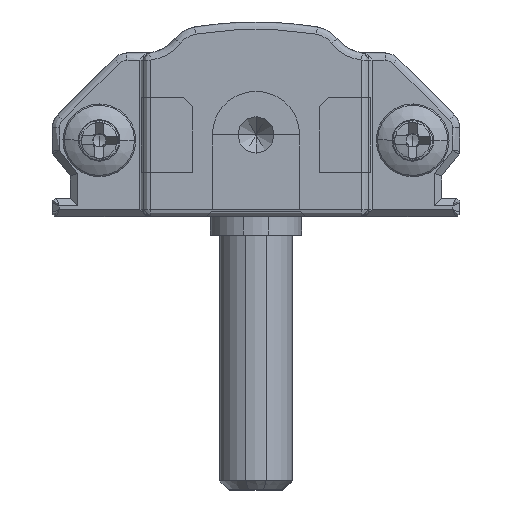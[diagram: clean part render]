
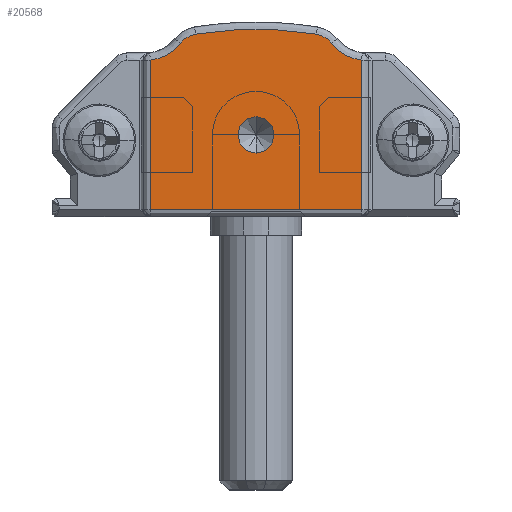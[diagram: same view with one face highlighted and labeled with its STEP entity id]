
A CAD part, front view. The second image highlights one B-rep face of the part: STEP entity #20568.
In plain terms, the highlighted planar face has unit normal (0, -1, 0).
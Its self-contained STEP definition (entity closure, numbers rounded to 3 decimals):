
#465 = DIRECTION ( 'NONE',  ( 1., 0., 0. ) ) ;
#1484 = FACE_OUTER_BOUND ( 'NONE', #29462, .T. ) ;
#2413 = VERTEX_POINT ( 'NONE', #11454 ) ;
#2668 = ORIENTED_EDGE ( 'NONE', *, *, #23107, .T. ) ;
#2838 = AXIS2_PLACEMENT_3D ( 'NONE', #22808, #31479, #45932 ) ;
#2909 = ORIENTED_EDGE ( 'NONE', *, *, #21476, .F. ) ;
#2975 = ORIENTED_EDGE ( 'NONE', *, *, #44107, .T. ) ;
#3580 = CARTESIAN_POINT ( 'NONE',  ( 14.3, -15., 8.75 ) ) ;
#3614 = VERTEX_POINT ( 'NONE', #35373 ) ;
#3628 = CIRCLE ( 'NONE', #37692, 1. ) ;
#4072 = VERTEX_POINT ( 'NONE', #14312 ) ;
#4471 = DIRECTION ( 'NONE',  ( 0., -1., 0. ) ) ;
#4996 = LINE ( 'NONE', #25826, #8708 ) ;
#5347 = ORIENTED_EDGE ( 'NONE', *, *, #10944, .T. ) ;
#6216 = CARTESIAN_POINT ( 'NONE',  ( 22.15, -15., 3.606 ) ) ;
#6855 = CARTESIAN_POINT ( 'NONE',  ( 7.892, -15., 10.034 ) ) ;
#7131 = LINE ( 'NONE', #21643, #11314 ) ;
#8708 = VECTOR ( 'NONE', #465, 1000. ) ;
#8737 = DIRECTION ( 'NONE',  ( 0., 0., -1. ) ) ;
#9156 = AXIS2_PLACEMENT_3D ( 'NONE', #6216, #32298, #42232 ) ;
#9877 = EDGE_CURVE ( 'NONE', #38940, #28938, #7131, .T. ) ;
#10461 = CARTESIAN_POINT ( 'NONE',  ( 11.2, -15., 3.5 ) ) ;
#10907 = DIRECTION ( 'NONE',  ( 0., 0., -1. ) ) ;
#10944 = EDGE_CURVE ( 'NONE', #3614, #39281, #17138, .T. ) ;
#11314 = VECTOR ( 'NONE', #46953, 1000. ) ;
#11454 = CARTESIAN_POINT ( 'NONE',  ( 15.332, -15., 9.541 ) ) ;
#12288 = DIRECTION ( 'NONE',  ( 0., -1., 0. ) ) ;
#12302 = ORIENTED_EDGE ( 'NONE', *, *, #19264, .F. ) ;
#13636 = DIRECTION ( 'NONE',  ( 0., 0., -1. ) ) ;
#13945 = AXIS2_PLACEMENT_3D ( 'NONE', #44257, #12288, #8737 ) ;
#14195 = CARTESIAN_POINT ( 'NONE',  ( 5.162, -15., 11. ) ) ;
#14312 = CARTESIAN_POINT ( 'NONE',  ( 11.2, -15., 5.5 ) ) ;
#16029 = FACE_BOUND ( 'NONE', #20073, .T. ) ;
#16448 = EDGE_CURVE ( 'NONE', #39281, #38940, #4996, .T. ) ;
#16707 = VERTEX_POINT ( 'NONE', #6855 ) ;
#17138 = LINE ( 'NONE', #31545, #30290 ) ;
#18114 = CARTESIAN_POINT ( 'NONE',  ( 5.4, -15., 0.4 ) ) ;
#18178 = DIRECTION ( 'NONE',  ( 0., 0., -1. ) ) ;
#18260 = ORIENTED_EDGE ( 'NONE', *, *, #24341, .T. ) ;
#18985 = DIRECTION ( 'NONE',  ( 0., 0., -1. ) ) ;
#19225 = CARTESIAN_POINT ( 'NONE',  ( 11.2, -15., 4.5 ) ) ;
#19264 = EDGE_CURVE ( 'NONE', #42915, #4072, #3628, .T. ) ;
#20073 = EDGE_LOOP ( 'NONE', ( #12302, #2909 ) ) ;
#20568 = ADVANCED_FACE ( 'NONE', ( #1484, #16029 ), #30402, .T. ) ;
#21047 = CARTESIAN_POINT ( 'NONE',  ( 8.1, -15., 8.75 ) ) ;
#21476 = EDGE_CURVE ( 'NONE', #4072, #42915, #44127, .T. ) ;
#21643 = CARTESIAN_POINT ( 'NONE',  ( 17., -15., 8.612 ) ) ;
#22296 = EDGE_CURVE ( 'NONE', #44804, #16707, #24522, .T. ) ;
#22808 = CARTESIAN_POINT ( 'NONE',  ( 17.238, -15., 11. ) ) ;
#23107 = EDGE_CURVE ( 'NONE', #45904, #3614, #25388, .T. ) ;
#24341 = EDGE_CURVE ( 'NONE', #16707, #45904, #33044, .T. ) ;
#24522 = CIRCLE ( 'NONE', #27494, 20.676 ) ;
#25388 = CIRCLE ( 'NONE', #36022, 2.4 ) ;
#25826 = CARTESIAN_POINT ( 'NONE',  ( 17., -15., 0.4 ) ) ;
#26295 = AXIS2_PLACEMENT_3D ( 'NONE', #3580, #40281, #39592 ) ;
#27494 = AXIS2_PLACEMENT_3D ( 'NONE', #43068, #44001, #10907 ) ;
#28635 = ORIENTED_EDGE ( 'NONE', *, *, #16448, .T. ) ;
#28938 = VERTEX_POINT ( 'NONE', #43546 ) ;
#29462 = EDGE_LOOP ( 'NONE', ( #31673, #2975, #39351, #42608, #18260, #2668, #5347, #28635 ) ) ;
#30290 = VECTOR ( 'NONE', #13636, 1000. ) ;
#30402 = PLANE ( 'NONE',  #9156 ) ;
#31479 = DIRECTION ( 'NONE',  ( 0., 1., 0. ) ) ;
#31545 = CARTESIAN_POINT ( 'NONE',  ( 5.4, -15., 0.4 ) ) ;
#31673 = ORIENTED_EDGE ( 'NONE', *, *, #9877, .T. ) ;
#32298 = DIRECTION ( 'NONE',  ( 0., -1., 0. ) ) ;
#33044 = CIRCLE ( 'NONE', #39811, 1.3 ) ;
#35373 = CARTESIAN_POINT ( 'NONE',  ( 5.4, -15., 8.612 ) ) ;
#35484 = CARTESIAN_POINT ( 'NONE',  ( 7.068, -15., 9.541 ) ) ;
#35896 = DIRECTION ( 'NONE',  ( 0., -1., 0. ) ) ;
#36022 = AXIS2_PLACEMENT_3D ( 'NONE', #14195, #46115, #42992 ) ;
#37692 = AXIS2_PLACEMENT_3D ( 'NONE', #19225, #4471, #18985 ) ;
#38940 = VERTEX_POINT ( 'NONE', #41684 ) ;
#39281 = VERTEX_POINT ( 'NONE', #18114 ) ;
#39351 = ORIENTED_EDGE ( 'NONE', *, *, #43970, .T. ) ;
#39561 = CARTESIAN_POINT ( 'NONE',  ( 14.508, -15., 10.034 ) ) ;
#39592 = DIRECTION ( 'NONE',  ( 0., 0., -1. ) ) ;
#39811 = AXIS2_PLACEMENT_3D ( 'NONE', #21047, #35896, #18178 ) ;
#40281 = DIRECTION ( 'NONE',  ( 0., -1., 0. ) ) ;
#41684 = CARTESIAN_POINT ( 'NONE',  ( 17., -15., 0.4 ) ) ;
#42232 = DIRECTION ( 'NONE',  ( 0., 0., -1. ) ) ;
#42608 = ORIENTED_EDGE ( 'NONE', *, *, #22296, .T. ) ;
#42915 = VERTEX_POINT ( 'NONE', #10461 ) ;
#42992 = DIRECTION ( 'NONE',  ( 0., 0., -1. ) ) ;
#43068 = CARTESIAN_POINT ( 'NONE',  ( 11.2, -15., -10.376 ) ) ;
#43546 = CARTESIAN_POINT ( 'NONE',  ( 17., -15., 8.612 ) ) ;
#43970 = EDGE_CURVE ( 'NONE', #2413, #44804, #46745, .T. ) ;
#44001 = DIRECTION ( 'NONE',  ( 0., -1., 0. ) ) ;
#44107 = EDGE_CURVE ( 'NONE', #28938, #2413, #44519, .T. ) ;
#44127 = CIRCLE ( 'NONE', #13945, 1. ) ;
#44257 = CARTESIAN_POINT ( 'NONE',  ( 11.2, -15., 4.5 ) ) ;
#44519 = CIRCLE ( 'NONE', #2838, 2.4 ) ;
#44804 = VERTEX_POINT ( 'NONE', #39561 ) ;
#45904 = VERTEX_POINT ( 'NONE', #35484 ) ;
#45932 = DIRECTION ( 'NONE',  ( 0., 0., -1. ) ) ;
#46115 = DIRECTION ( 'NONE',  ( 0., 1., 0. ) ) ;
#46745 = CIRCLE ( 'NONE', #26295, 1.3 ) ;
#46953 = DIRECTION ( 'NONE',  ( 0., 0., 1. ) ) ;
